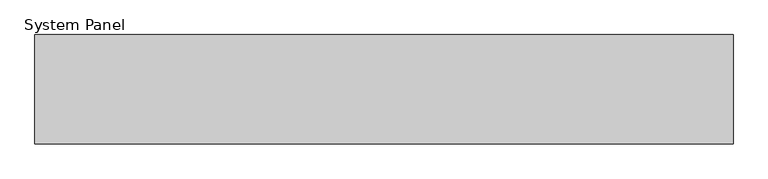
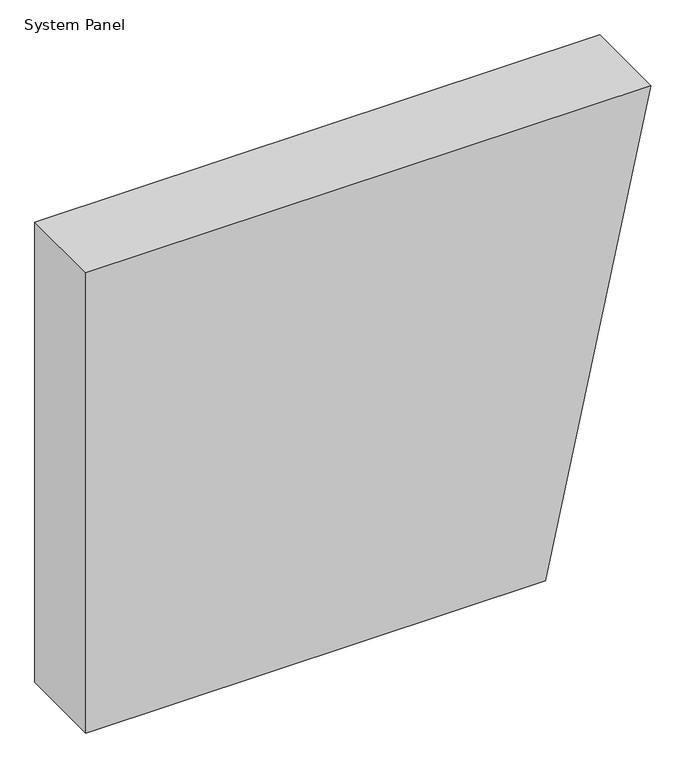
"""IFC4 building model written with IfcOpenShell, lengths in millimetres: plate geometry, System Panel : MetecnoPanel 200mm Horizontal - Plain Astro - PIR."""

import ifcopenshell
import ifcopenshell.guid

model = None  # the IFC model being written
_history = None  # IfcOwnerHistory: only IFC2X3 demands one
_inside = {}  # id of a spatial element -> (the spatial element, [elements in it])
_under = {}  # id of a project, library or spatial element -> (it, [spatial elements below it])
_declared = {}  # id of a project -> (the project, [libraries it declares])
_typed = {}  # id of a type object -> (the type object, [elements of that type])
_made_of = {}  # id of a material, layer set ... -> (it, [elements and type objects made of it])


def new_model(schema):
    """Start an empty IFC model of exactly this schema.

    Asked for "IFC4X3", IfcOpenShell would pick the latest addendum, in which some entities
    have other attributes; the version numbers below select the first issue.
    IFC2X3 requires an IfcOwnerHistory on every rooted entity: one is made here for all.
    """
    global model, _history
    if schema == "IFC4X3":
        model = ifcopenshell.file(schema_version=(4, 3, 0, 0))
    else:
        model = ifcopenshell.file(schema=schema)
    _inside.clear()
    _under.clear()
    _declared.clear()
    _typed.clear()
    _made_of.clear()
    _history = None
    if model.schema == "IFC2X3":
        org = make("IfcOrganization", Name="unknown")
        user = make(
            "IfcPersonAndOrganization",
            ThePerson=make("IfcPerson", FamilyName="unknown"),
            TheOrganization=org,
        )
        app = make(
            "IfcApplication",
            ApplicationDeveloper=org,
            Version="unknown",
            ApplicationFullName="unknown",
            ApplicationIdentifier="unknown",
        )
        _history = make(
            "IfcOwnerHistory",
            OwningUser=user,
            OwningApplication=app,
            ChangeAction="ADDED",
            CreationDate=0,
        )
    return model


def make(cls, **values):
    """One entity of the class cls with the attributes given. An attribute that is None is left unset."""
    return model.create_entity(
        cls, **{name: value for name, value in values.items() if value is not None}
    )


def rooted(cls, **values):
    """An entity with a GlobalId (a new one), such as an element, a storey or a relation."""
    return make(cls, GlobalId=ifcopenshell.guid.new(), OwnerHistory=_history, **values)


def si_unit(unit_type, name, prefix=None):
    """IfcSIUnit, for example si_unit("LENGTHUNIT", "METRE", prefix="MILLI")."""
    return make("IfcSIUnit", UnitType=unit_type, Prefix=prefix, Name=name)


def assignment(units):
    """IfcUnitAssignment: the units of a project."""
    return None if units is None else make("IfcUnitAssignment", Units=units)


def point(xyz):
    """IfcCartesianPoint."""
    return None if xyz is None else make("IfcCartesianPoint", Coordinates=xyz)


def direction(xyz):
    """IfcDirection."""
    return None if xyz is None else make("IfcDirection", DirectionRatios=xyz)


def frame(location, z_axis=None, x_axis=None):
    """IfcAxis2Placement3D, a coordinate frame: its origin and axes. An axis left out is left unset."""
    return make(
        "IfcAxis2Placement3D",
        Location=point(location),
        Axis=direction(z_axis),
        RefDirection=direction(x_axis),
    )


def origin():
    """The frame at (0, 0, 0) with its axes left unset."""
    return frame((0.0, 0.0, 0.0))


def place(relative_to, where):
    """IfcLocalPlacement: puts the frame where relative to a parent placement (None: the world)."""
    return make(
        "IfcLocalPlacement", PlacementRelTo=relative_to, RelativePlacement=where
    )


def context(
    kind, dimensions, precision=None, world=None, true_north=None, identifier=None
):
    """IfcGeometricRepresentationContext, for example the 3D "Model" context."""
    return make(
        "IfcGeometricRepresentationContext",
        ContextIdentifier=identifier,
        ContextType=kind,
        CoordinateSpaceDimension=dimensions,
        Precision=precision,
        WorldCoordinateSystem=world,
        TrueNorth=true_north,
    )


def project(units=None, contexts=None):
    """IfcProject with its units and contexts."""
    return rooted(
        "IfcProject",
        Name="project",
        RepresentationContexts=contexts,
        UnitsInContext=assignment(units),
    )


def spatial(cls, under=None, at=None, **own):
    """A site, building, storey or space (cls), placed at a placement, below another one or the project."""
    s = rooted(cls, ObjectPlacement=at, **own)
    if under is not None:
        _under.setdefault(under.id(), (under, []))[1].append(s)
    return s


def polyline(points):
    """IfcPolyline through the points."""
    return make("IfcPolyline", Points=[point(p) for p in points])


def outline(outer, holes=None, kind="AREA"):
    """IfcArbitraryClosedProfileDef: a profile drawn as a closed curve; with holes, ...WithVoids."""
    if holes is None:
        return make("IfcArbitraryClosedProfileDef", ProfileType=kind, OuterCurve=outer)
    return make(
        "IfcArbitraryProfileDefWithVoids",
        ProfileType=kind,
        OuterCurve=outer,
        InnerCurves=holes,
    )


def extrude(swept, where, along, depth):
    """IfcExtrudedAreaSolid: the profile swept, set in the frame where, extruded along a direction by depth."""
    return make(
        "IfcExtrudedAreaSolid",
        SweptArea=swept,
        Position=where,
        ExtrudedDirection=direction(along),
        Depth=depth,
    )


def shape(context_of_items, identifier, shape_type, items):
    """IfcShapeRepresentation: the items that make up one representation, for example the "Body"."""
    return make(
        "IfcShapeRepresentation",
        ContextOfItems=context_of_items,
        RepresentationIdentifier=identifier,
        RepresentationType=shape_type,
        Items=items,
    )


def source(mapping_origin, context_of_items, identifier, shape_type, items):
    """IfcRepresentationMap: a shape defined once, which mapped items show again and again."""
    return make(
        "IfcRepresentationMap",
        MappingOrigin=mapping_origin,
        MappedRepresentation=shape(context_of_items, identifier, shape_type, items),
    )


def transform(
    local_origin,
    x_axis=None,
    y_axis=None,
    z_axis=None,
    scale=None,
    scale2=None,
    scale3=None,
    uniform=True,
):
    """IfcCartesianTransformationOperator3D, or its non-uniform kind. x_axis, y_axis, z_axis: its Axis1, 2, 3."""
    if uniform:
        return make(
            "IfcCartesianTransformationOperator3D",
            Axis1=direction(x_axis),
            Axis2=direction(y_axis),
            LocalOrigin=point(local_origin),
            Scale=scale,
            Axis3=direction(z_axis),
        )
    return make(
        "IfcCartesianTransformationOperator3DnonUniform",
        Axis1=direction(x_axis),
        Axis2=direction(y_axis),
        LocalOrigin=point(local_origin),
        Scale=scale,
        Axis3=direction(z_axis),
        Scale2=scale2,
        Scale3=scale3,
    )


def mapped(mapping_source, mapping_target):
    """IfcMappedItem: shows the shape of a source again, moved by a transform."""
    return make(
        "IfcMappedItem", MappingSource=mapping_source, MappingTarget=mapping_target
    )


def made_of(thing, what):
    """Note that an element or type object is made of a material, layer set ...; save() writes the relation."""
    if what is not None:
        _made_of.setdefault(what.id(), (what, []))[1].append(thing)
    return thing


def element(
    cls,
    number,
    at=None,
    inside=None,
    cuts=None,
    type_object=None,
    material=None,
    context=None,
    identifier="Body",
    shape_type=None,
    held_by="IfcProductDefinitionShape",
    body=None,
    shapes=None,
    **own,
):
    """One element of the class cls, such as IfcWall. Its Tag is "e" and its number.

    at: its placement. inside: the storey or other place that contains it. cuts: it is an
    opening in that element (IfcRelVoidsElement). A single representation is given by context,
    identifier, shape_type and body (its items); several are given by shapes. held_by: the class
    of the entity that holds the representations. save() writes the other relations.
    """
    e = rooted(cls, Tag="e%d" % number, ObjectPlacement=at, **own)
    if body is not None:
        shapes = [shape(context, identifier, shape_type, body)]
    if shapes is not None:
        e.Representation = make(held_by, Representations=shapes)
    if inside is not None:
        _inside.setdefault(inside.id(), (inside, []))[1].append(e)
    if cuts is not None:
        rooted(
            "IfcRelVoidsElement", RelatingBuildingElement=cuts, RelatedOpeningElement=e
        )
    if type_object is not None:
        _typed.setdefault(type_object.id(), (type_object, []))[1].append(e)
    return made_of(e, material)


def aggregate(whole, parts):
    """IfcRelAggregates: a whole, such as a stair, and the parts it consists of."""
    return rooted("IfcRelAggregates", RelatingObject=whole, RelatedObjects=parts)


def save(model, path):
    """Write the relations noted so far, then the file.

    IfcRelAggregates (storeys below a building ...), IfcRelContainedInSpatialStructure (elements
    in a storey), IfcRelDefinesByType, IfcRelAssociatesMaterial and IfcRelDeclares: one each for
    every whole, place, type object, material and project.
    """
    for whole, parts in _under.values():
        aggregate(whole, parts)
    for where, things in _inside.values():
        rooted(
            "IfcRelContainedInSpatialStructure",
            RelatedElements=things,
            RelatingStructure=where,
        )
    for kind, things in _typed.values():
        rooted("IfcRelDefinesByType", RelatedObjects=things, RelatingType=kind)
    for what, things in _made_of.values():
        rooted("IfcRelAssociatesMaterial", RelatedObjects=things, RelatingMaterial=what)
    for by, libraries in _declared.values():
        rooted("IfcRelDeclares", RelatingContext=by, RelatedDefinitions=libraries)
    model.write(path)


def system_panel_78d070a1(model_context):
    return source(origin(), model_context, "Body", "SweptSolid", [
        extrude(outline(polyline([(0.0, -639.1323567), (0.0, 400.0), (1100.0, 639.1323567), (1100.0, -639.1323567), (0.0, -639.1323567)])), frame((0.0, -200.0, 0.0), z_axis=(0.0, 1.0, 0.0), x_axis=(0.0, 0.0, 1.0)), (0.0, 0.0, 1.0), 200.0),
    ])


if __name__ == "__main__":
    model = new_model("IFC4")
    model_context = context("Model", 3, world=origin())
    ifc_project = project(units=[si_unit("LENGTHUNIT", "METRE", prefix="MILLI")], contexts=[model_context])
    site = spatial("IfcSite", under=ifc_project)
    building = spatial("IfcBuilding", under=site)
    placement = place(None, origin())
    system_panel_shape = system_panel_78d070a1(model_context)
    element("IfcPlate", 1, ObjectType="System Panel : MetecnoPanel 200mm Horizontal - Plain Astro - PIR", at=placement, inside=building, context=model_context, shape_type="MappedRepresentation", body=[
        mapped(system_panel_shape, transform((0.0, 0.0, 0.0), x_axis=(1.0, 0.0, 0.0), y_axis=(0.0, 1.0, 0.0), z_axis=(0.0, 0.0, 1.0))),
    ])
    save(model, "model.ifc")
